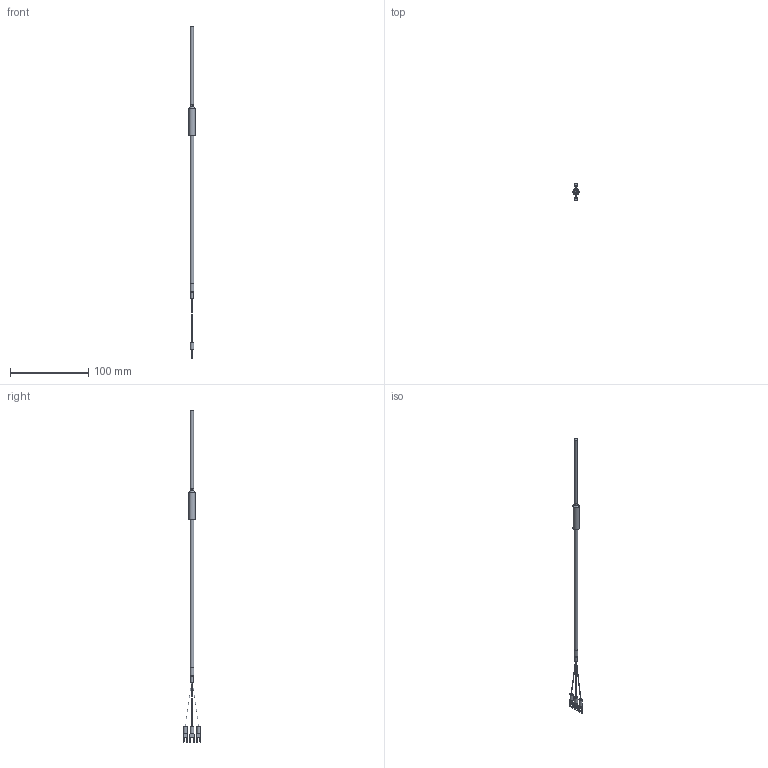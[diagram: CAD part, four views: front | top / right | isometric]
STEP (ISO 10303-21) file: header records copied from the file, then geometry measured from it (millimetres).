
FILE_DESCRIPTION (( 'STEP AP203' ), '1' );
FILE_NAME ('YIR101-3(0).STEP', '2024-09-26T07:41:19', ( '' ), ( '' ), 'SwSTEP 2.0', 'SolidWorks 2021', '' );
FILE_SCHEMA (( 'CONFIG_CONTROL_DESIGN' ));
Length unit declared in the file: millimetre
Products named in the file (1): YIR101-3(0)
Bounding box: 8 x 22.96 x 424.72 mm (x, y, z)
Volume: 7368.7 mm3; surface area: 6469.6 mm2
Topology: 1 solids, 1 shells, 88 faces, 217 edges, 142 vertices
Faces by surface type: plane 46, cylinder 30, bspline 8, cone 3, torus 1
Full cylindrical faces by diameter (mm): 0.5 x1, 3.16 x1, 4 x1, 4.5 x3, 4.8 x1, 5 x1, 8 x1
Entity records: 2757 total; most frequent: CARTESIAN_POINT 671, DIRECTION 412, ORIENTED_EDGE 394, EDGE_CURVE 197, AXIS2_PLACEMENT_3D 146, VERTEX_POINT 137, LINE 120, VECTOR 120
